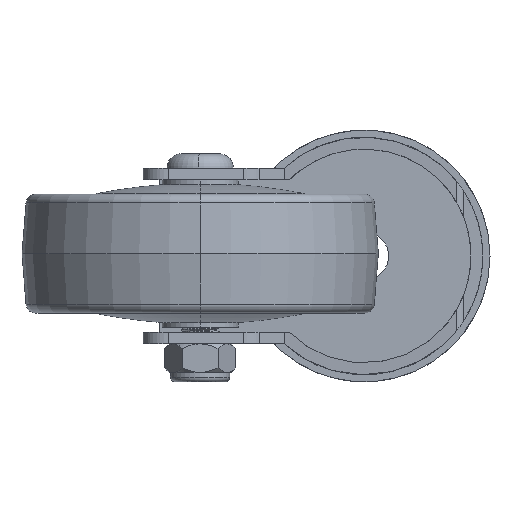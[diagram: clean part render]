
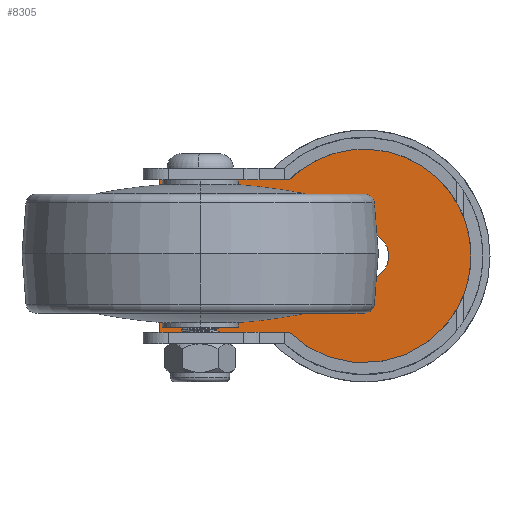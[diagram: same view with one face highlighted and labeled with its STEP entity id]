
A CAD part, front view. The second image highlights one B-rep face of the part: STEP entity #8305.
In plain terms, the highlighted planar face has unit normal (0, -1, 0) as drawn and (0, 1, 0) by its records, which use the part's own axes.
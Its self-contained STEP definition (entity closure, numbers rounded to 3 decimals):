
#87 = CARTESIAN_POINT ( 'NONE',  ( 16., 2.5, 15.819 ) ) ;
#132 = CARTESIAN_POINT ( 'NONE',  ( 0., 2.5, 0. ) ) ;
#147 = EDGE_CURVE ( 'NONE', #11065, #1319, #23961, .T. ) ;
#168 = VECTOR ( 'NONE', #13185, 1000. ) ;
#811 = EDGE_CURVE ( 'NONE', #5585, #23049, #12756, .T. ) ;
#1141 = CARTESIAN_POINT ( 'NONE',  ( 0., 2.5, 0. ) ) ;
#1319 = VERTEX_POINT ( 'NONE', #22449 ) ;
#1342 = AXIS2_PLACEMENT_3D ( 'NONE', #11171, #9297, #11294 ) ;
#1388 = CARTESIAN_POINT ( 'NONE',  ( 0., 2.5, -5.15 ) ) ;
#1767 = CARTESIAN_POINT ( 'NONE',  ( 16., 2.5, 55. ) ) ;
#1977 = DIRECTION ( 'NONE',  ( 0., 0., 1. ) ) ;
#3794 = DIRECTION ( 'NONE',  ( 1., 0., 0. ) ) ;
#3896 = DIRECTION ( 'NONE',  ( 0., 0., -1. ) ) ;
#3985 = CARTESIAN_POINT ( 'NONE',  ( 0., 2.5, -22.5 ) ) ;
#4118 = VERTEX_POINT ( 'NONE', #3985 ) ;
#4557 = DIRECTION ( 'NONE',  ( 0., 1., 0. ) ) ;
#5215 = EDGE_CURVE ( 'NONE', #4118, #20232, #21653, .T. ) ;
#5585 = VERTEX_POINT ( 'NONE', #11275 ) ;
#5589 = EDGE_LOOP ( 'NONE', ( #24262, #25698 ) ) ;
#7013 = EDGE_CURVE ( 'NONE', #10834, #4118, #15206, .T. ) ;
#7297 = VECTOR ( 'NONE', #3794, 1000. ) ;
#7371 = LINE ( 'NONE', #9087, #168 ) ;
#7384 = FACE_OUTER_BOUND ( 'NONE', #22242, .T. ) ;
#8305 = ADVANCED_FACE ( 'NONE', ( #11088, #7384 ), #9494, .T. ) ;
#9087 = CARTESIAN_POINT ( 'NONE',  ( -16., 2.5, 0. ) ) ;
#9297 = DIRECTION ( 'NONE',  ( 0., 1., 0. ) ) ;
#9494 = PLANE ( 'NONE',  #16955 ) ;
#10255 = CARTESIAN_POINT ( 'NONE',  ( -16., 2.5, 42.976 ) ) ;
#10705 = VECTOR ( 'NONE', #3896, 1000. ) ;
#10834 = VERTEX_POINT ( 'NONE', #87 ) ;
#11065 = VERTEX_POINT ( 'NONE', #10255 ) ;
#11088 = FACE_BOUND ( 'NONE', #5589, .T. ) ;
#11171 = CARTESIAN_POINT ( 'NONE',  ( 0., 2.5, 0. ) ) ;
#11275 = CARTESIAN_POINT ( 'NONE',  ( 0., 2.5, 5.15 ) ) ;
#11294 = DIRECTION ( 'NONE',  ( 0., 0., 1. ) ) ;
#12119 = ORIENTED_EDGE ( 'NONE', *, *, #23148, .T. ) ;
#12756 = CIRCLE ( 'NONE', #14440, 5.15 ) ;
#13185 = DIRECTION ( 'NONE',  ( 0., 0., -1. ) ) ;
#13202 = DIRECTION ( 'NONE',  ( 0., 0., 1. ) ) ;
#14147 = CARTESIAN_POINT ( 'NONE',  ( 0., 2.5, 0. ) ) ;
#14440 = AXIS2_PLACEMENT_3D ( 'NONE', #14147, #18384, #16267 ) ;
#14639 = CARTESIAN_POINT ( 'NONE',  ( 0., 2.5, 0. ) ) ;
#14892 = CIRCLE ( 'NONE', #1342, 5.15 ) ;
#15206 = CIRCLE ( 'NONE', #17759, 22.5 ) ;
#16267 = DIRECTION ( 'NONE',  ( 0., 0., 1. ) ) ;
#16477 = CARTESIAN_POINT ( 'NONE',  ( 0., 2.5, 42.976 ) ) ;
#16597 = CARTESIAN_POINT ( 'NONE',  ( -16., 2.5, 15.819 ) ) ;
#16955 = AXIS2_PLACEMENT_3D ( 'NONE', #1141, #19569, #13202 ) ;
#17759 = AXIS2_PLACEMENT_3D ( 'NONE', #132, #20145, #1977 ) ;
#18384 = DIRECTION ( 'NONE',  ( 0., 1., 0. ) ) ;
#18912 = ORIENTED_EDGE ( 'NONE', *, *, #147, .T. ) ;
#19093 = EDGE_CURVE ( 'NONE', #23049, #5585, #14892, .T. ) ;
#19569 = DIRECTION ( 'NONE',  ( 0., 1., 0. ) ) ;
#20145 = DIRECTION ( 'NONE',  ( 0., 1., 0. ) ) ;
#20232 = VERTEX_POINT ( 'NONE', #16597 ) ;
#20291 = ORIENTED_EDGE ( 'NONE', *, *, #7013, .T. ) ;
#20599 = DIRECTION ( 'NONE',  ( 0., 0., 1. ) ) ;
#21560 = ORIENTED_EDGE ( 'NONE', *, *, #5215, .T. ) ;
#21653 = CIRCLE ( 'NONE', #22929, 22.5 ) ;
#21923 = LINE ( 'NONE', #1767, #10705 ) ;
#22242 = EDGE_LOOP ( 'NONE', ( #18912, #12119, #20291, #21560, #25993 ) ) ;
#22449 = CARTESIAN_POINT ( 'NONE',  ( 16., 2.5, 42.976 ) ) ;
#22929 = AXIS2_PLACEMENT_3D ( 'NONE', #14639, #4557, #20599 ) ;
#23049 = VERTEX_POINT ( 'NONE', #1388 ) ;
#23148 = EDGE_CURVE ( 'NONE', #1319, #10834, #21923, .T. ) ;
#23961 = LINE ( 'NONE', #16477, #7297 ) ;
#24262 = ORIENTED_EDGE ( 'NONE', *, *, #19093, .F. ) ;
#24685 = EDGE_CURVE ( 'NONE', #11065, #20232, #7371, .T. ) ;
#25698 = ORIENTED_EDGE ( 'NONE', *, *, #811, .F. ) ;
#25993 = ORIENTED_EDGE ( 'NONE', *, *, #24685, .F. ) ;
